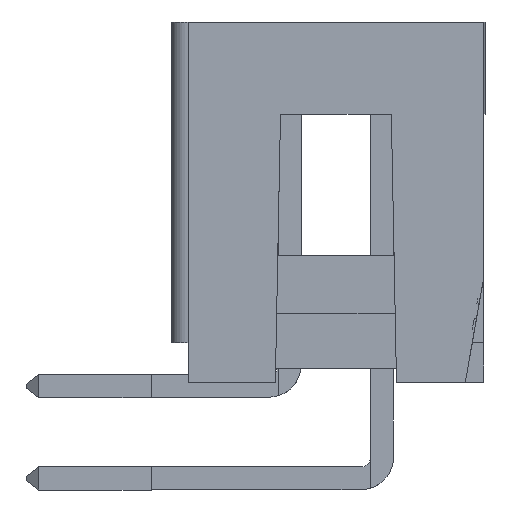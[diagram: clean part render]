
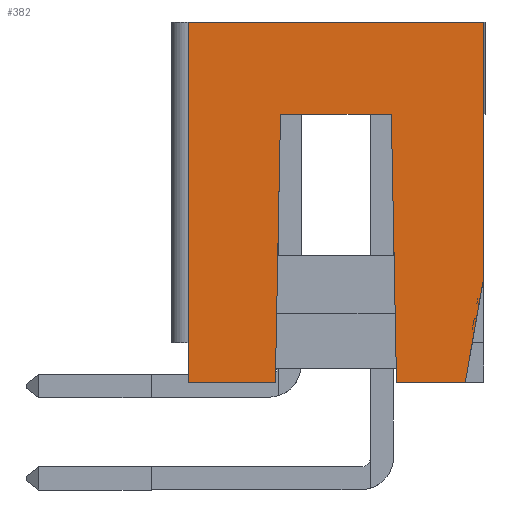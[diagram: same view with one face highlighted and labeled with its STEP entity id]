
A CAD part, front view. The second image highlights one B-rep face of the part: STEP entity #382.
In plain terms, the highlighted planar face has unit normal (0, -1, 0).
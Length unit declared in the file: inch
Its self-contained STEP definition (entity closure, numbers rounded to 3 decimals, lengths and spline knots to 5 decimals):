
#382=ADVANCED_FACE('',(#1493),#964,.T.);
#964=PLANE('',#11105);
#1493=FACE_OUTER_BOUND('',#2102,.T.);
#2102=EDGE_LOOP('',(#5662,#5663,#5664,#5665,#5666,#5667,#5668,#5669,#5670));
#2793=LINE('',#14676,#4107);
#2830=LINE('',#14772,#4144);
#2847=LINE('',#14808,#4161);
#2863=LINE('',#14844,#4177);
#2893=LINE('',#14902,#4207);
#2907=LINE('',#14936,#4221);
#2908=LINE('',#14938,#4222);
#2909=LINE('',#14940,#4223);
#2910=LINE('',#14941,#4224);
#4107=VECTOR('',#11864,1.);
#4144=VECTOR('',#11945,1.);
#4161=VECTOR('',#11976,1.);
#4177=VECTOR('',#12002,1.);
#4207=VECTOR('',#12054,1.);
#4221=VECTOR('',#12078,1.);
#4222=VECTOR('',#12081,1.);
#4223=VECTOR('',#12082,1.);
#4224=VECTOR('',#12083,1.);
#5662=ORIENTED_EDGE('',*,*,#9649,.F.);
#5663=ORIENTED_EDGE('',*,*,#9650,.T.);
#5664=ORIENTED_EDGE('',*,*,#9651,.F.);
#5665=ORIENTED_EDGE('',*,*,#9632,.T.);
#5666=ORIENTED_EDGE('',*,*,#9563,.F.);
#5667=ORIENTED_EDGE('',*,*,#9601,.T.);
#5668=ORIENTED_EDGE('',*,*,#9652,.T.);
#5669=ORIENTED_EDGE('',*,*,#9582,.T.);
#5670=ORIENTED_EDGE('',*,*,#9516,.T.);
#8525=VERTEX_POINT('',#14675);
#8526=VERTEX_POINT('',#14677);
#8562=VERTEX_POINT('',#14771);
#8563=VERTEX_POINT('',#14773);
#8575=VERTEX_POINT('',#14809);
#8589=VERTEX_POINT('',#14843);
#8607=VERTEX_POINT('',#14903);
#8621=VERTEX_POINT('',#14935);
#8622=VERTEX_POINT('',#14939);
#9516=EDGE_CURVE('',#8526,#8525,#2793,.T.);
#9563=EDGE_CURVE('',#8562,#8563,#2830,.T.);
#9582=EDGE_CURVE('',#8575,#8526,#2847,.T.);
#9601=EDGE_CURVE('',#8562,#8589,#2863,.T.);
#9632=EDGE_CURVE('',#8607,#8563,#2893,.T.);
#9649=EDGE_CURVE('',#8621,#8525,#2907,.T.);
#9650=EDGE_CURVE('',#8621,#8622,#2908,.T.);
#9651=EDGE_CURVE('',#8607,#8622,#2909,.T.);
#9652=EDGE_CURVE('',#8589,#8575,#2910,.T.);
#11105=AXIS2_PLACEMENT_3D('',#14942,#12084,#12085);
#11864=DIRECTION('',(1.,0.,0.));
#11945=DIRECTION('',(1.,0.,0.));
#11976=DIRECTION('',(0.019,0.,1.));
#12002=DIRECTION('',(0.,0.,-1.));
#12054=DIRECTION('',(0.,0.,1.));
#12078=DIRECTION('',(-0.019,0.,1.));
#12081=DIRECTION('',(1.,0.,0.));
#12082=DIRECTION('',(-0.174,0.,-0.985));
#12083=DIRECTION('',(1.,0.,0.));
#12084=DIRECTION('',(0.,-1.,0.));
#12085=DIRECTION('',(1.,0.,0.));
#14675=CARTESIAN_POINT('',(0.01,-0.044,0.27));
#14676=CARTESIAN_POINT('',(-0.11,-0.044,0.27));
#14677=CARTESIAN_POINT('',(-0.11,-0.044,0.27));
#14771=CARTESIAN_POINT('',(-0.21,-0.044,0.37));
#14772=CARTESIAN_POINT('',(-0.21,-0.044,0.37));
#14773=CARTESIAN_POINT('',(0.11,-0.044,0.37));
#14808=CARTESIAN_POINT('',(-0.11,-0.044,0.27));
#14809=CARTESIAN_POINT('',(-0.11557,-0.044,-0.02));
#14843=CARTESIAN_POINT('',(-0.21,-0.044,-0.02));
#14844=CARTESIAN_POINT('',(-0.21,-0.044,0.1965));
#14902=CARTESIAN_POINT('',(0.11,-0.044,0.1965));
#14903=CARTESIAN_POINT('',(0.11,-0.044,0.09343));
#14935=CARTESIAN_POINT('',(0.01557,-0.044,-0.02));
#14936=CARTESIAN_POINT('',(0.01133,-0.044,0.20075));
#14938=CARTESIAN_POINT('',(-0.21,-0.044,-0.02));
#14939=CARTESIAN_POINT('',(0.09,-0.044,-0.02));
#14940=CARTESIAN_POINT('',(0.11798,-0.044,0.13867));
#14941=CARTESIAN_POINT('',(-0.21,-0.044,-0.02));
#14942=CARTESIAN_POINT('',(-0.21,-0.044,0.1965));
